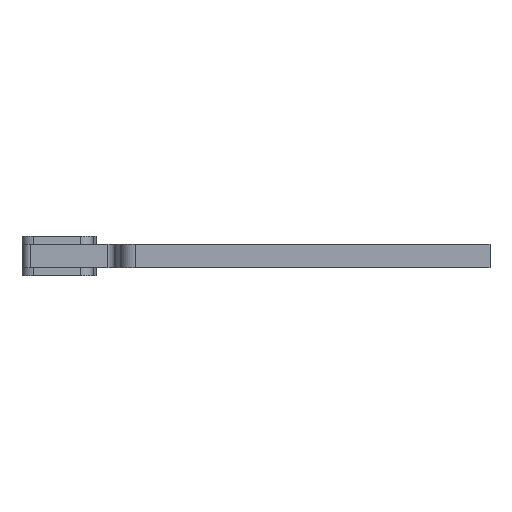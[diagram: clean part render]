
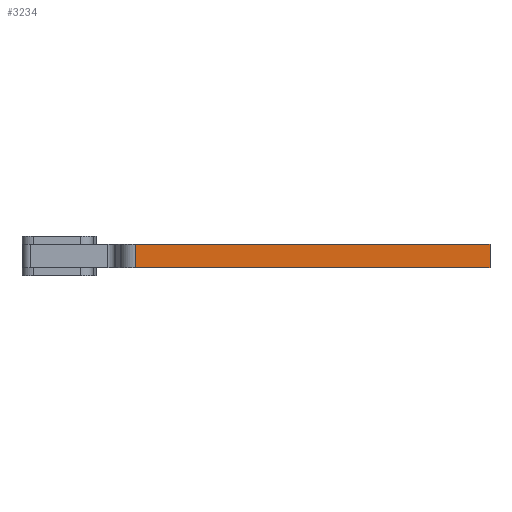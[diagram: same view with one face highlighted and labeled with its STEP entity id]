
A CAD part, front view. The second image highlights one B-rep face of the part: STEP entity #3234.
In plain terms, the highlighted planar face has unit normal (0, -1, 0).
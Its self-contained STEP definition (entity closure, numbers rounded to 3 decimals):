
#66=LINE('',#4917,#381);
#67=LINE('',#4920,#382);
#68=LINE('',#4922,#383);
#69=LINE('',#4923,#384);
#381=VECTOR('',#3906,38.1);
#382=VECTOR('',#3909,572.426);
#383=VECTOR('',#3910,38.1);
#384=VECTOR('',#3911,572.426);
#670=PLANE('',#3452);
#826=FACE_OUTER_BOUND('',#1028,.T.);
#1028=EDGE_LOOP('',(#2300,#2301,#2302,#2303));
#1414=VERTEX_POINT('',#4911);
#1416=VERTEX_POINT('',#4915);
#1417=VERTEX_POINT('',#4919);
#1418=VERTEX_POINT('',#4921);
#1756=EDGE_CURVE('',#1414,#1416,#66,.T.);
#1757=EDGE_CURVE('',#1417,#1416,#67,.T.);
#1758=EDGE_CURVE('',#1417,#1418,#68,.T.);
#1759=EDGE_CURVE('',#1414,#1418,#69,.T.);
#2300=ORIENTED_EDGE('',*,*,#1756,.T.);
#2301=ORIENTED_EDGE('',*,*,#1757,.F.);
#2302=ORIENTED_EDGE('',*,*,#1758,.T.);
#2303=ORIENTED_EDGE('',*,*,#1759,.F.);
#3234=ADVANCED_FACE('',(#826),#670,.T.);
#3452=AXIS2_PLACEMENT_3D('',#4918,#3907,#3908);
#3906=DIRECTION('',(0.,0.,1.));
#3907=DIRECTION('center_axis',(0.,-1.,0.));
#3908=DIRECTION('ref_axis',(1.,0.,0.));
#3909=DIRECTION('',(1.,0.,0.));
#3910=DIRECTION('',(0.,0.,-1.));
#3911=DIRECTION('',(-1.,0.,0.));
#4911=CARTESIAN_POINT('',(-376.84,0.,-19.05));
#4915=CARTESIAN_POINT('',(-376.84,0.,19.05));
#4917=CARTESIAN_POINT('',(-376.84,0.,9.525));
#4918=CARTESIAN_POINT('Origin',(-949.266,0.,
0.));
#4919=CARTESIAN_POINT('',(-949.266,0.,19.05));
#4920=CARTESIAN_POINT('',(0.,0.,19.05));
#4921=CARTESIAN_POINT('',(-949.266,0.,-19.05));
#4922=CARTESIAN_POINT('',(-949.266,0.,0.));
#4923=CARTESIAN_POINT('',(0.,0.,-19.05));
